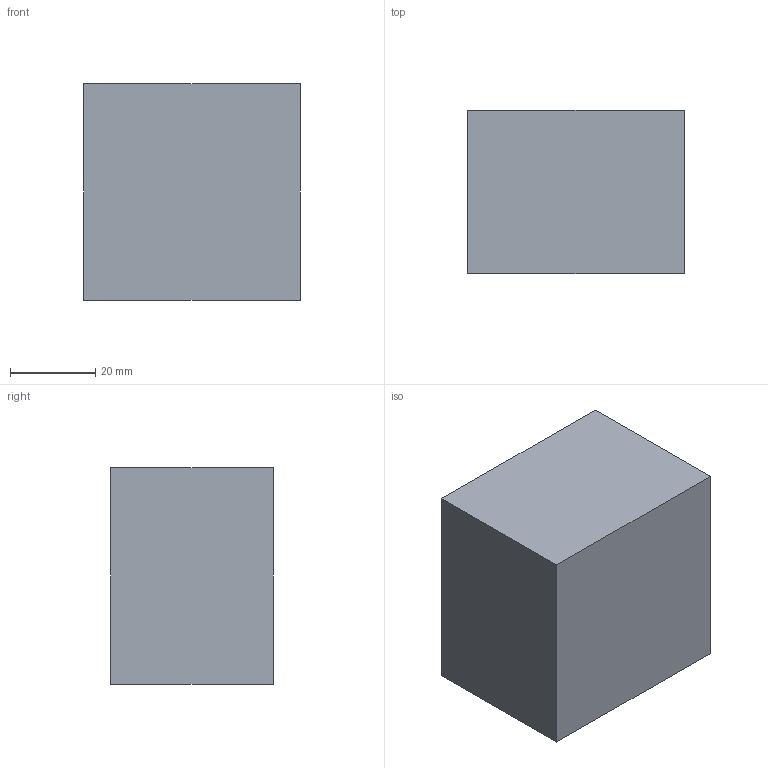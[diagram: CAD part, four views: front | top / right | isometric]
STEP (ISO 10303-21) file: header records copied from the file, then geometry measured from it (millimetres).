
FILE_DESCRIPTION (( 'STEP AP214' ), '1' );
FILE_NAME ('SmartLock_Plunger_Pocket.STEP', '2020-07-28T18:02:53', ( '' ), ( '' ), 'SwSTEP 2.0', 'SolidWorks 2020', '' );
FILE_SCHEMA (( 'AUTOMOTIVE_DESIGN' ));
Length unit declared in the file: inch
Products named in the file (1): SmartLock_Plunger_Pocket
Bounding box: 50.8 x 38.1 x 50.8 mm (x, y, z)
Volume: 96774.7 mm3; surface area: 13452.1 mm2
Topology: 1 solids, 1 shells, 9 faces, 18 edges, 12 vertices
Faces by surface type: plane 7, cylinder 2
Entity records: 276 total; most frequent: DIRECTION 42, CARTESIAN_POINT 40, ORIENTED_EDGE 36, EDGE_CURVE 18, VECTOR 14, LINE 14, AXIS2_PLACEMENT_3D 14, VERTEX_POINT 12
